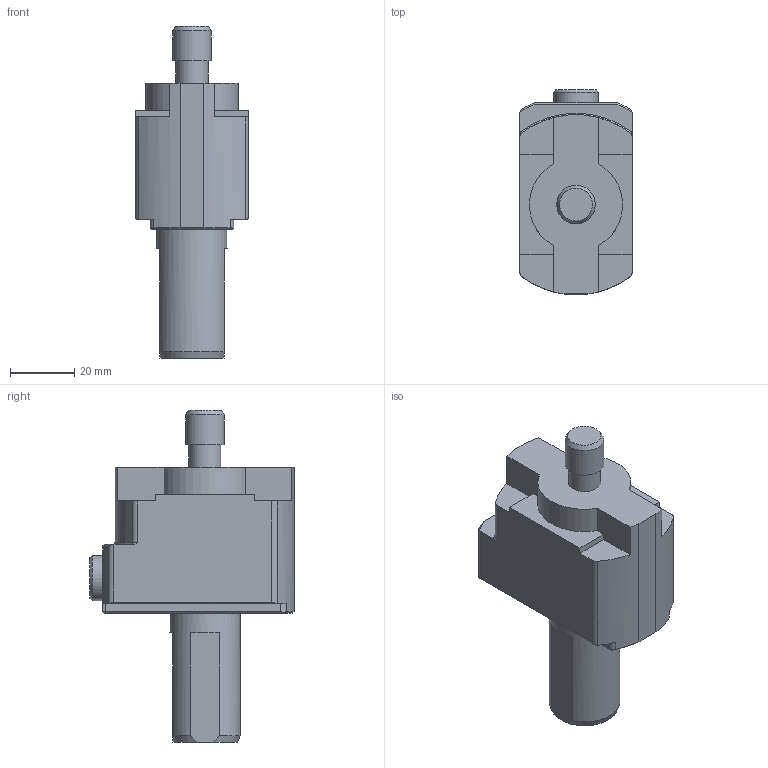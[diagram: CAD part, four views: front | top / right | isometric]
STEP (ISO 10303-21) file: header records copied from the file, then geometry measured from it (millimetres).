
FILE_DESCRIPTION (( 'STEP AP214' ), '1' );
FILE_NAME ('97-000-220 - light.STEP', '2025-03-12T13:46:28', ( 'pc' ), ( '' ), 'SwSTEP 2.0', 'SolidWorks 2024', '' );
FILE_SCHEMA (( 'AUTOMOTIVE_DESIGN' ));
Length unit declared in the file: millimetre
Products named in the file (1): 97-000-220 - light
Bounding box: 35 x 63.5 x 103.3 mm (x, y, z)
Volume: 94773.7 mm3; surface area: 15365.8 mm2
Topology: 1 solids, 1 shells, 83 faces, 212 edges, 137 vertices
Faces by surface type: plane 44, cylinder 23, cone 13, torus 3
Full cylindrical faces by diameter (mm): 10 x1, 12 x1, 14 x2, 15 x1, 22 x1
Entity records: 2582 total; most frequent: CARTESIAN_POINT 607, DIRECTION 405, ORIENTED_EDGE 400, EDGE_CURVE 200, AXIS2_PLACEMENT_3D 153, VERTEX_POINT 135, LINE 99, EDGE_LOOP 99
